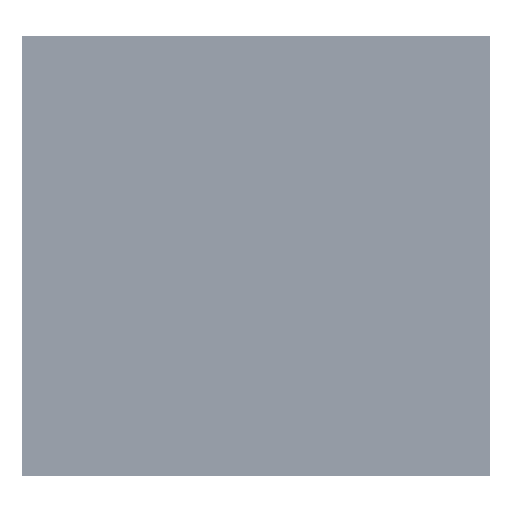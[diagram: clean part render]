
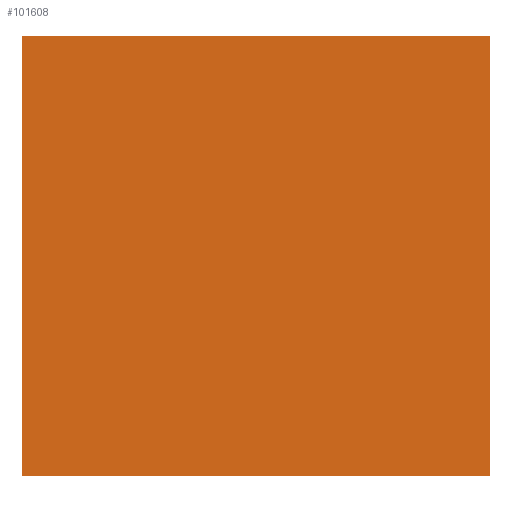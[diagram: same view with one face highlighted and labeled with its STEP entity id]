
A CAD part, front view. The second image highlights one B-rep face of the part: STEP entity #101608.
In plain terms, the highlighted planar face has unit normal (0, -1, 0) as drawn and (0, 0, 1) by its records, which use the part's own axes.
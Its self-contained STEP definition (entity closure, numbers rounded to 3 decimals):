
#12805=FACE_OUTER_BOUND('',#18747,.T.);
#18747=EDGE_LOOP('',(#70117,#70118,#70119,#70120));
#25835=LINE('',#157912,#34904);
#25840=LINE('',#157921,#34909);
#25842=LINE('',#157926,#34911);
#25845=LINE('',#157930,#34914);
#34904=VECTOR('',#121875,10.);
#34909=VECTOR('',#121882,10.);
#34911=VECTOR('',#121886,10.);
#34914=VECTOR('',#121891,10.);
#43585=VERTEX_POINT('',#157909);
#43586=VERTEX_POINT('',#157911);
#43589=VERTEX_POINT('',#157919);
#43591=VERTEX_POINT('',#157925);
#53726=EDGE_CURVE('',#43586,#43585,#25835,.T.);
#53731=EDGE_CURVE('',#43585,#43589,#25840,.T.);
#53733=EDGE_CURVE('',#43591,#43586,#25842,.T.);
#53736=EDGE_CURVE('',#43589,#43591,#25845,.T.);
#70117=ORIENTED_EDGE('',*,*,#53736,.T.);
#70118=ORIENTED_EDGE('',*,*,#53733,.T.);
#70119=ORIENTED_EDGE('',*,*,#53726,.T.);
#70120=ORIENTED_EDGE('',*,*,#53731,.T.);
#98584=PLANE('',#109172);
#101608=ADVANCED_FACE('',(#12805),#98584,.T.);
#109172=AXIS2_PLACEMENT_3D('',#157931,#121892,#121893);
#121875=DIRECTION('',(-1.,0.,0.));
#121882=DIRECTION('',(0.,-1.,0.));
#121886=DIRECTION('',(0.,1.,0.));
#121891=DIRECTION('',(1.,0.,0.));
#121892=DIRECTION('center_axis',(0.,0.,1.));
#121893=DIRECTION('ref_axis',(1.,0.,0.));
#157909=CARTESIAN_POINT('',(-15802.14,21162.916,100.));
#157911=CARTESIAN_POINT('',(14402.995,21162.916,100.));
#157912=CARTESIAN_POINT('',(14402.995,21162.916,100.));
#157919=CARTESIAN_POINT('',(-15802.14,-7250.59,100.));
#157921=CARTESIAN_POINT('',(-15802.14,21162.916,100.));
#157925=CARTESIAN_POINT('',(14402.995,-7250.59,100.));
#157926=CARTESIAN_POINT('',(14402.995,-7250.59,100.));
#157930=CARTESIAN_POINT('',(-15802.14,-7250.59,100.));
#157931=CARTESIAN_POINT('Origin',(-699.573,6956.163,100.));
